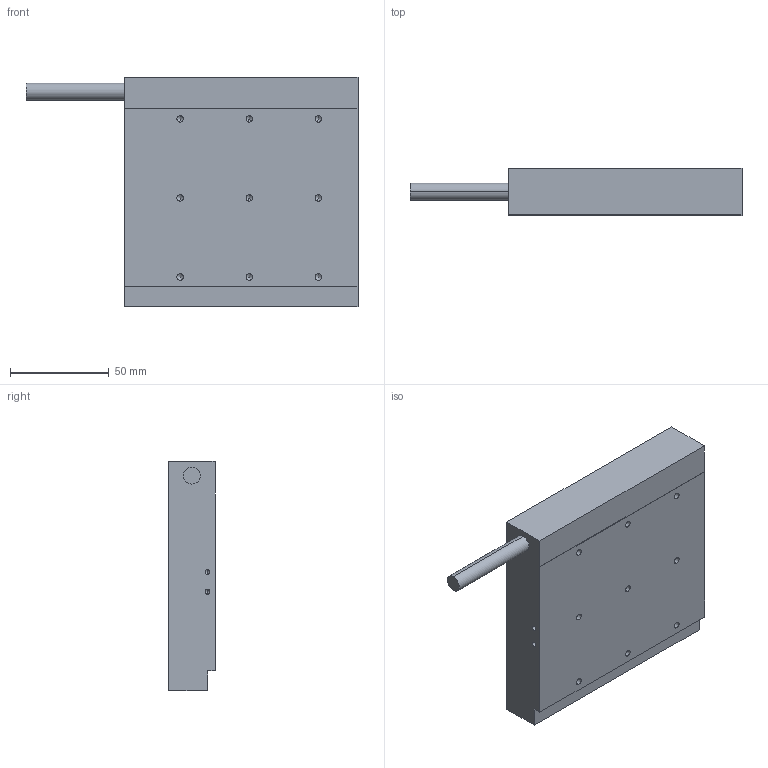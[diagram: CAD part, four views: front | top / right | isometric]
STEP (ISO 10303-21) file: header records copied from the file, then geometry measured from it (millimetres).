
FILE_DESCRIPTION (( 'STEP AP214' ), '1' );
FILE_NAME ('雄赽MK31.STEP', '2025-09-05T09:01:58', ( '' ), ( '' ), 'SwSTEP 2.0', 'SolidWorks 2016', '' );
FILE_SCHEMA (( 'AUTOMOTIVE_DESIGN' ));
Length unit declared in the file: millimetre
Products named in the file (1): 雄赽MK31
Bounding box: 168 x 23.7 x 116 mm (x, y, z)
Volume: 321581.9 mm3; surface area: 40408.5 mm2
Topology: 1 solids, 1 shells, 57 faces, 140 edges, 75 vertices
Faces by surface type: cylinder 24, cone 22, plane 11
Entity records: 1865 total; most frequent: DIRECTION 282, CARTESIAN_POINT 251, ORIENTED_EDGE 236, EDGE_CURVE 118, AXIS2_PLACEMENT_3D 106, VERTEX_POINT 75, LINE 70, VECTOR 70
